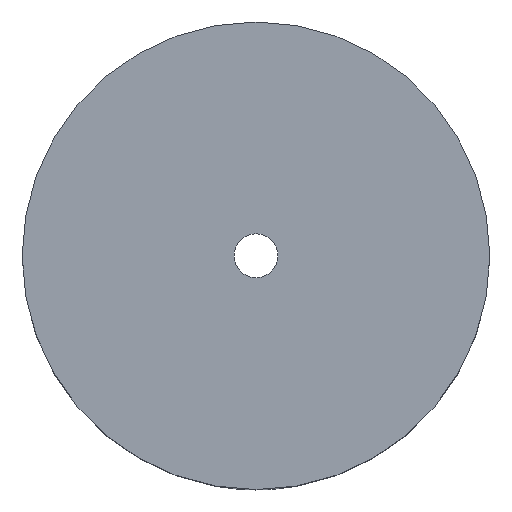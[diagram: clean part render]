
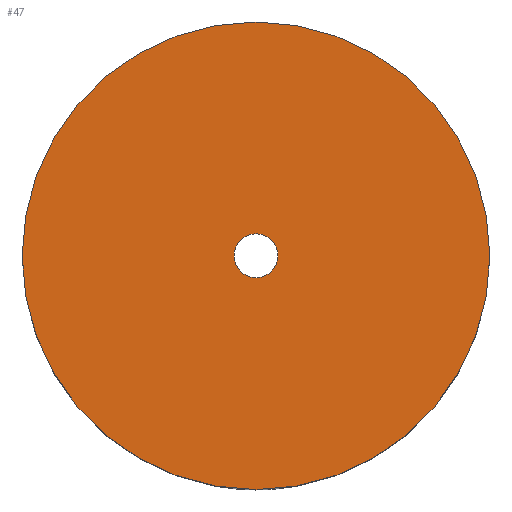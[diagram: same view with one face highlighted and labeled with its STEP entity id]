
A CAD part, top view. The second image highlights one B-rep face of the part: STEP entity #47.
In plain terms, the highlighted planar face has unit normal (0, 0, 1).
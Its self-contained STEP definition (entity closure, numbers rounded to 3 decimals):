
#7 = AXIS2_PLACEMENT_3D ( 'NONE', #22, #218, #399 ) ;
#22 = CARTESIAN_POINT ( 'NONE',  ( 0., -2.25, 0. ) ) ;
#24 = CARTESIAN_POINT ( 'NONE',  ( 0., 0., 0. ) ) ;
#32 = DIRECTION ( 'NONE',  ( 1., 0., 0. ) ) ;
#47 = ADVANCED_FACE ( 'NONE', ( #386, #567 ), #153, .T. ) ;
#62 = EDGE_CURVE ( 'NONE', #475, #230, #531, .T. ) ;
#64 = CARTESIAN_POINT ( 'NONE',  ( 2.25, 0., 0. ) ) ;
#81 = CARTESIAN_POINT ( 'NONE',  ( 0., 0., 0. ) ) ;
#92 = ORIENTED_EDGE ( 'NONE', *, *, #513, .F. ) ;
#121 = CARTESIAN_POINT ( 'NONE',  ( -24., 0., 0. ) ) ;
#152 = EDGE_CURVE ( 'NONE', #501, #208, #559, .T. ) ;
#153 = PLANE ( 'NONE',  #7 ) ;
#156 = CIRCLE ( 'NONE', #351, 24. ) ;
#167 = DIRECTION ( 'NONE',  ( 1., 0., 0. ) ) ;
#169 = DIRECTION ( 'NONE',  ( 0., 0., 1. ) ) ;
#175 = DIRECTION ( 'NONE',  ( 0., 0., 1. ) ) ;
#191 = AXIS2_PLACEMENT_3D ( 'NONE', #578, #365, #32 ) ;
#192 = CIRCLE ( 'NONE', #506, 2.25 ) ;
#208 = VERTEX_POINT ( 'NONE', #333 ) ;
#216 = ORIENTED_EDGE ( 'NONE', *, *, #62, .F. ) ;
#218 = DIRECTION ( 'NONE',  ( 0., 0., 1. ) ) ;
#227 = EDGE_LOOP ( 'NONE', ( #92, #216 ) ) ;
#230 = VERTEX_POINT ( 'NONE', #472 ) ;
#266 = CARTESIAN_POINT ( 'NONE',  ( 0., 0., 0. ) ) ;
#302 = AXIS2_PLACEMENT_3D ( 'NONE', #266, #169, #167 ) ;
#333 = CARTESIAN_POINT ( 'NONE',  ( 24., 0., 0. ) ) ;
#334 = EDGE_CURVE ( 'NONE', #208, #501, #156, .T. ) ;
#351 = AXIS2_PLACEMENT_3D ( 'NONE', #24, #481, #432 ) ;
#365 = DIRECTION ( 'NONE',  ( 0., 0., 1. ) ) ;
#386 = FACE_OUTER_BOUND ( 'NONE', #479, .T. ) ;
#399 = DIRECTION ( 'NONE',  ( 1., 0., 0. ) ) ;
#419 = ORIENTED_EDGE ( 'NONE', *, *, #152, .T. ) ;
#432 = DIRECTION ( 'NONE',  ( 1., 0., 0. ) ) ;
#442 = ORIENTED_EDGE ( 'NONE', *, *, #334, .T. ) ;
#445 = DIRECTION ( 'NONE',  ( 1., 0., 0. ) ) ;
#472 = CARTESIAN_POINT ( 'NONE',  ( -2.25, 0., 0. ) ) ;
#475 = VERTEX_POINT ( 'NONE', #64 ) ;
#479 = EDGE_LOOP ( 'NONE', ( #442, #419 ) ) ;
#481 = DIRECTION ( 'NONE',  ( 0., 0., 1. ) ) ;
#501 = VERTEX_POINT ( 'NONE', #121 ) ;
#506 = AXIS2_PLACEMENT_3D ( 'NONE', #81, #175, #445 ) ;
#513 = EDGE_CURVE ( 'NONE', #230, #475, #192, .T. ) ;
#531 = CIRCLE ( 'NONE', #302, 2.25 ) ;
#559 = CIRCLE ( 'NONE', #191, 24. ) ;
#567 = FACE_BOUND ( 'NONE', #227, .T. ) ;
#578 = CARTESIAN_POINT ( 'NONE',  ( 0., 0., 0. ) ) ;
